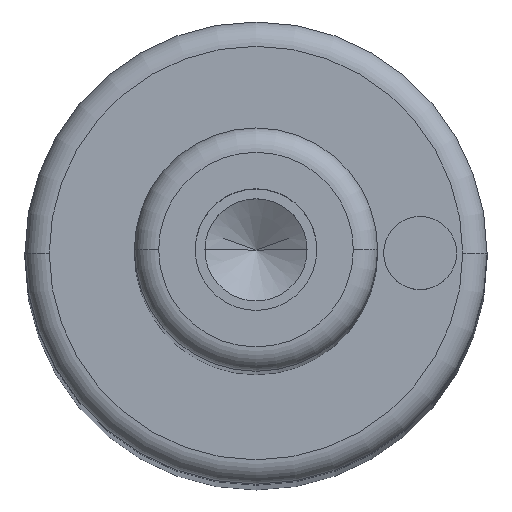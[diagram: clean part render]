
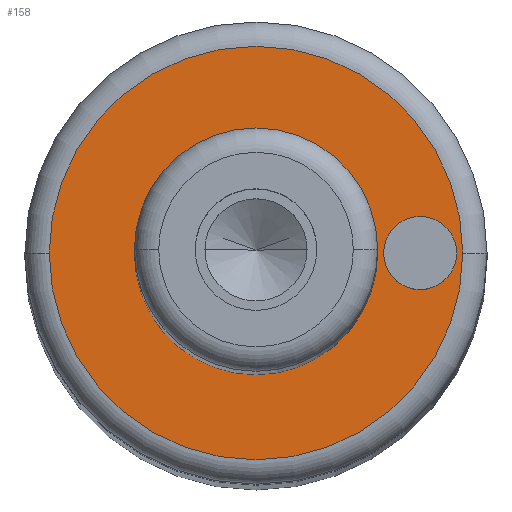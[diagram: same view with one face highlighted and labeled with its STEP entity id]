
A CAD part, top view. The second image highlights one B-rep face of the part: STEP entity #158.
In plain terms, the highlighted planar face has unit normal (0, 0, 1).
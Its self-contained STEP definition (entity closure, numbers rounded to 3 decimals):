
#105=PLANE('',#628);
#113=FACE_BOUND('',#229,.T.);
#114=FACE_BOUND('',#230,.T.);
#115=FACE_BOUND('',#231,.T.);
#158=ADVANCED_FACE('',(#113,#114,#115),#105,.T.);
#229=EDGE_LOOP('',(#375,#376));
#230=EDGE_LOOP('',(#377,#378));
#231=EDGE_LOOP('',(#379,#380));
#259=CIRCLE('',#596,5.);
#260=CIRCLE('',#598,5.);
#264=CIRCLE('',#603,8.5);
#265=CIRCLE('',#605,8.5);
#277=CIRCLE('',#626,1.5);
#278=CIRCLE('',#627,1.5);
#375=ORIENTED_EDGE('',*,*,#488,.F.);
#376=ORIENTED_EDGE('',*,*,#489,.F.);
#377=ORIENTED_EDGE('',*,*,#507,.F.);
#378=ORIENTED_EDGE('',*,*,#508,.F.);
#379=ORIENTED_EDGE('',*,*,#484,.T.);
#380=ORIENTED_EDGE('',*,*,#482,.T.);
#434=VERTEX_POINT('',#875);
#435=VERTEX_POINT('',#877);
#436=VERTEX_POINT('',#883);
#439=VERTEX_POINT('',#888);
#448=VERTEX_POINT('',#927);
#449=VERTEX_POINT('',#928);
#482=EDGE_CURVE('',#435,#434,#259,.T.);
#484=EDGE_CURVE('',#434,#435,#260,.T.);
#488=EDGE_CURVE('',#439,#436,#264,.T.);
#489=EDGE_CURVE('',#436,#439,#265,.T.);
#507=EDGE_CURVE('',#448,#449,#277,.T.);
#508=EDGE_CURVE('',#449,#448,#278,.T.);
#596=AXIS2_PLACEMENT_3D('',#876,#707,#708);
#598=AXIS2_PLACEMENT_3D('',#880,#712,#713);
#603=AXIS2_PLACEMENT_3D('',#889,#722,#723);
#605=AXIS2_PLACEMENT_3D('',#891,#726,#727);
#626=AXIS2_PLACEMENT_3D('',#926,#774,#775);
#627=AXIS2_PLACEMENT_3D('',#929,#776,#777);
#628=AXIS2_PLACEMENT_3D('',#930,#778,#779);
#707=DIRECTION('',(0.,0.,-1.));
#708=DIRECTION('',(0.,1.,0.));
#712=DIRECTION('',(0.,0.,-1.));
#713=DIRECTION('',(0.,-1.,0.));
#722=DIRECTION('',(0.,0.,-1.));
#723=DIRECTION('',(0.,1.,0.));
#726=DIRECTION('',(0.,0.,-1.));
#727=DIRECTION('',(0.,-1.,0.));
#774=DIRECTION('',(0.,0.,1.));
#775=DIRECTION('',(0.,1.,0.));
#776=DIRECTION('',(0.,0.,1.));
#777=DIRECTION('',(0.,-1.,0.));
#778=DIRECTION('',(0.,0.,1.));
#779=DIRECTION('',(0.,-1.,0.));
#875=CARTESIAN_POINT('',(-5.,0.,138.));
#876=CARTESIAN_POINT('',(0.,0.,138.));
#877=CARTESIAN_POINT('',(5.,0.,138.));
#880=CARTESIAN_POINT('',(0.,0.,138.));
#883=CARTESIAN_POINT('',(-8.5,0.,138.));
#888=CARTESIAN_POINT('',(8.5,0.,138.));
#889=CARTESIAN_POINT('',(0.,0.,138.));
#891=CARTESIAN_POINT('',(0.,0.,138.));
#926=CARTESIAN_POINT('',(6.75,0.,138.));
#927=CARTESIAN_POINT('',(5.25,0.,138.));
#928=CARTESIAN_POINT('',(8.25,0.,138.));
#929=CARTESIAN_POINT('',(6.75,0.,138.));
#930=CARTESIAN_POINT('',(0.,0.,138.));
